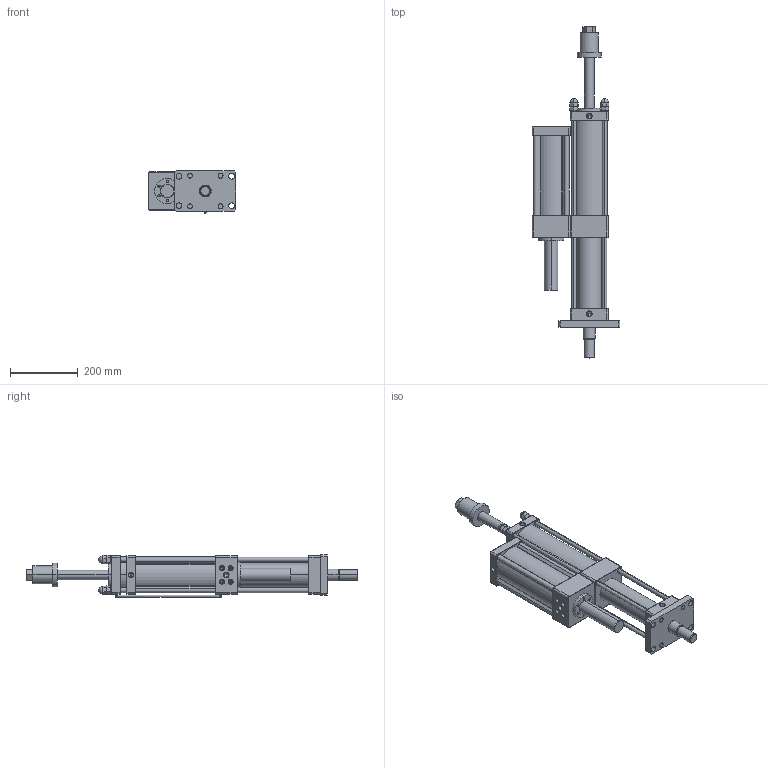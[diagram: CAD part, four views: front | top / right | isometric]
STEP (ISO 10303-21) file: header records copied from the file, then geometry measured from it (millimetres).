
FILE_DESCRIPTION (( 'STEP AP203' ), '1' );
FILE_NAME ('MPTD-80-150-15-5T.STEP', '2017-01-04T02:14:07', ( 'WIN' ), ( '' ), 'SwSTEP 2.0', 'SolidWorks 2014', '' );
FILE_SCHEMA (( 'CONFIG_CONTROL_DESIGN' ));
Length unit declared in the file: millimetre
Products named in the file (1): MPTD-80-150-15-5T
Bounding box: 258 x 977 x 124 mm (x, y, z)
Volume: 4858886.3 mm3; surface area: 954828.8 mm2
Topology: 5 solids, 13 shells, 566 faces, 1323 edges, 817 vertices
Faces by surface type: plane 303, cylinder 199, cone 56, torus 8
Entity records: 16004 total; most frequent: CARTESIAN_POINT 2957, DIRECTION 2821, ORIENTED_EDGE 2594, EDGE_CURVE 1297, AXIS2_PLACEMENT_3D 1049, VERTEX_POINT 817, LINE 723, VECTOR 723
